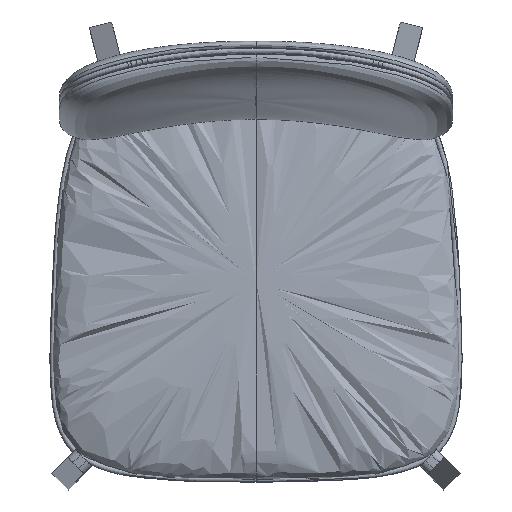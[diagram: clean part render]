
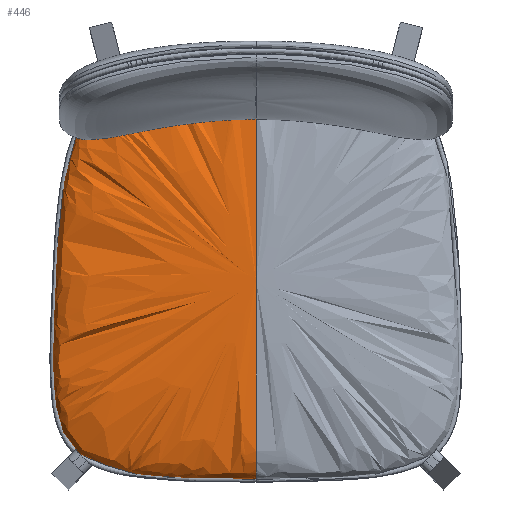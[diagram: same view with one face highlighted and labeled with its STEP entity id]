
A CAD part, top view. The second image highlights one B-rep face of the part: STEP entity #446.
In plain terms, the highlighted free-form (B-spline) face has degree [3, 3] with [7, 7] control points.
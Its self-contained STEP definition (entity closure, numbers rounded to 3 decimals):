
#446=ADVANCED_FACE('',(#807),#5156,.T.);
#807=FACE_OUTER_BOUND('',#1192,.T.);
#1192=EDGE_LOOP('',(#2756,#2757,#2758));
#2756=ORIENTED_EDGE('',*,*,#3559,.T.);
#2757=ORIENTED_EDGE('',*,*,#3560,.T.);
#2758=ORIENTED_EDGE('',*,*,#3561,.F.);
#3559=EDGE_CURVE('',#4819,#4820,#4361,.T.);
#3560=EDGE_CURVE('',#4820,#4821,#4362,.T.);
#3561=EDGE_CURVE('',#4819,#4821,#4363,.T.);
#4361=B_SPLINE_CURVE_WITH_KNOTS('',3,(#33084,#33085,#33086,#33087,#33088,
#33089,#33090),.UNSPECIFIED.,.F.,.F.,(4,3,4),(0.,1.,8.5),.UNSPECIFIED.);
#4362=B_SPLINE_CURVE_WITH_KNOTS('',3,(#33091,#33092,#33093,#33094,#33095,
#33096,#33097),.UNSPECIFIED.,.F.,.F.,(4,3,4),(-4.,-3.,-2.),
 .UNSPECIFIED.);
#4363=B_SPLINE_CURVE_WITH_KNOTS('',3,(#33098,#33099,#33100,#33101,#33102,
#33103,#33104),.UNSPECIFIED.,.F.,.F.,(4,3,4),(0.,1.,8.5),.UNSPECIFIED.);
#4819=VERTEX_POINT('',#33081);
#4820=VERTEX_POINT('',#33082);
#4821=VERTEX_POINT('',#33083);
#5156=B_SPLINE_SURFACE_WITH_KNOTS('',3,3,((#33032,#33033,#33034,#33035,
#33036,#33037,#33038),(#33039,#33040,#33041,#33042,#33043,#33044,#33045),
(#33046,#33047,#33048,#33049,#33050,#33051,#33052),(#33053,#33054,#33055,
#33056,#33057,#33058,#33059),(#33060,#33061,#33062,#33063,#33064,#33065,
#33066),(#33067,#33068,#33069,#33070,#33071,#33072,#33073),(#33074,#33075,
#33076,#33077,#33078,#33079,#33080)),.UNSPECIFIED.,.F.,.F.,.F.,(4,3,4),
(4,3,4),(2.,3.,4.),(0.,1.,8.5),.UNSPECIFIED.);
#33032=CARTESIAN_POINT('',(0.,5.,435.));
#33033=CARTESIAN_POINT('',(0.,-199.029,435.));
#33034=CARTESIAN_POINT('',(0.,-210.,426.105));
#33035=CARTESIAN_POINT('',(0.,-210.,401.932));
#33036=CARTESIAN_POINT('',(0.,-210.,401.071));
#33037=CARTESIAN_POINT('',(0.,-210.,400.595));
#33038=CARTESIAN_POINT('',(0.,-210.,400.));
#33039=CARTESIAN_POINT('',(0.,5.,435.));
#33040=CARTESIAN_POINT('',(-203.272,-199.029,435.));
#33041=CARTESIAN_POINT('',(-214.203,-210.,426.105));
#33042=CARTESIAN_POINT('',(-214.203,-210.,401.932));
#33043=CARTESIAN_POINT('',(-214.203,-210.,401.071));
#33044=CARTESIAN_POINT('',(-214.203,-210.,400.595));
#33045=CARTESIAN_POINT('',(-214.203,-210.,400.));
#33046=CARTESIAN_POINT('',(0.,5.,435.));
#33047=CARTESIAN_POINT('',(-213.052,-185.357,435.));
#33048=CARTESIAN_POINT('',(-224.509,-195.593,426.105));
#33049=CARTESIAN_POINT('',(-224.509,-195.593,401.932));
#33050=CARTESIAN_POINT('',(-224.509,-195.593,401.071));
#33051=CARTESIAN_POINT('',(-224.509,-195.593,400.595));
#33052=CARTESIAN_POINT('',(-224.509,-195.593,400.));
#33053=CARTESIAN_POINT('',(0.,5.,435.));
#33054=CARTESIAN_POINT('',(-207.764,-30.237,435.));
#33055=CARTESIAN_POINT('',(-218.936,-32.132,426.105));
#33056=CARTESIAN_POINT('',(-218.936,-32.132,401.932));
#33057=CARTESIAN_POINT('',(-218.936,-32.132,401.071));
#33058=CARTESIAN_POINT('',(-218.936,-32.132,400.595));
#33059=CARTESIAN_POINT('',(-218.936,-32.132,400.));
#33060=CARTESIAN_POINT('',(0.,5.,435.));
#33061=CARTESIAN_POINT('',(-199.81,203.358,435.));
#33062=CARTESIAN_POINT('',(-210.555,214.025,426.105));
#33063=CARTESIAN_POINT('',(-210.555,214.025,401.932));
#33064=CARTESIAN_POINT('',(-210.555,214.025,401.071));
#33065=CARTESIAN_POINT('',(-210.555,214.025,400.595));
#33066=CARTESIAN_POINT('',(-210.555,214.025,400.));
#33067=CARTESIAN_POINT('',(0.,5.,435.));
#33068=CARTESIAN_POINT('',(-180.035,218.518,435.));
#33069=CARTESIAN_POINT('',(-189.716,230.,426.105));
#33070=CARTESIAN_POINT('',(-189.716,230.,401.932));
#33071=CARTESIAN_POINT('',(-189.716,230.,401.071));
#33072=CARTESIAN_POINT('',(-189.716,230.,400.595));
#33073=CARTESIAN_POINT('',(-189.716,230.,400.));
#33074=CARTESIAN_POINT('',(0.,5.,435.));
#33075=CARTESIAN_POINT('',(0.,218.518,435.));
#33076=CARTESIAN_POINT('',(0.,230.,426.105));
#33077=CARTESIAN_POINT('',(0.,230.,401.932));
#33078=CARTESIAN_POINT('',(0.,230.,401.071));
#33079=CARTESIAN_POINT('',(0.,230.,400.595));
#33080=CARTESIAN_POINT('',(0.,230.,400.));
#33081=CARTESIAN_POINT('',(0.,5.,435.));
#33082=CARTESIAN_POINT('',(0.,230.,400.));
#33083=CARTESIAN_POINT('',(0.,-210.,400.));
#33084=CARTESIAN_POINT('',(0.,5.,435.));
#33085=CARTESIAN_POINT('',(0.,218.518,435.));
#33086=CARTESIAN_POINT('',(0.,230.,426.105));
#33087=CARTESIAN_POINT('',(0.,230.,401.932));
#33088=CARTESIAN_POINT('',(0.,230.,401.071));
#33089=CARTESIAN_POINT('',(0.,230.,400.595));
#33090=CARTESIAN_POINT('',(0.,230.,400.));
#33091=CARTESIAN_POINT('',(0.,230.,400.));
#33092=CARTESIAN_POINT('',(-189.716,230.,400.));
#33093=CARTESIAN_POINT('',(-210.555,214.025,400.));
#33094=CARTESIAN_POINT('',(-218.936,-32.132,400.));
#33095=CARTESIAN_POINT('',(-224.509,-195.593,400.));
#33096=CARTESIAN_POINT('',(-214.203,-210.,400.));
#33097=CARTESIAN_POINT('',(0.,-210.,400.));
#33098=CARTESIAN_POINT('',(0.,5.,435.));
#33099=CARTESIAN_POINT('',(0.,-199.029,435.));
#33100=CARTESIAN_POINT('',(0.,-210.,426.105));
#33101=CARTESIAN_POINT('',(0.,-210.,401.932));
#33102=CARTESIAN_POINT('',(0.,-210.,401.071));
#33103=CARTESIAN_POINT('',(0.,-210.,400.595));
#33104=CARTESIAN_POINT('',(0.,-210.,400.));
